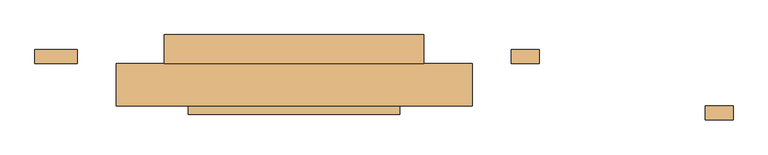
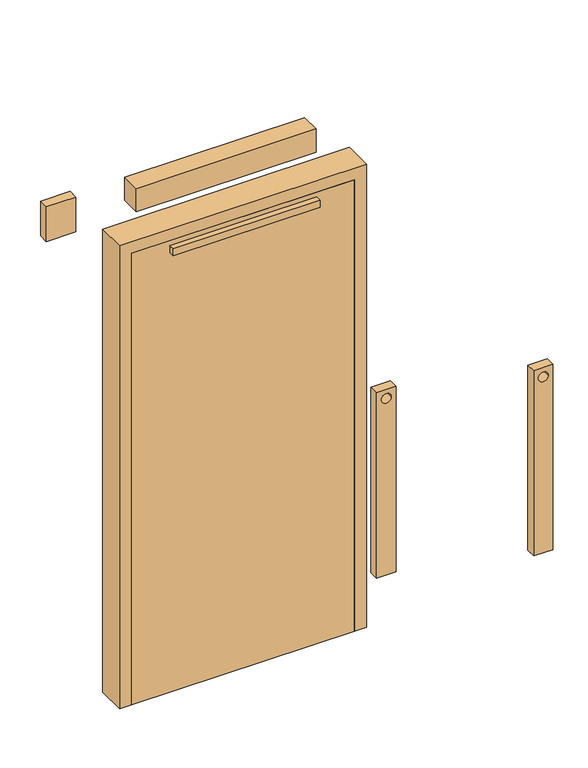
"""IFC4 building model written with IfcOpenShell, lengths in millimetres: door geometry, LOC_Enkeldörr : LOC_Enkeldörr."""

import ifcopenshell
import ifcopenshell.guid

model = None  # the IFC model being written
_history = None  # IfcOwnerHistory: only IFC2X3 demands one
_inside = {}  # id of a spatial element -> (the spatial element, [elements in it])
_under = {}  # id of a project, library or spatial element -> (it, [spatial elements below it])
_declared = {}  # id of a project -> (the project, [libraries it declares])
_typed = {}  # id of a type object -> (the type object, [elements of that type])
_made_of = {}  # id of a material, layer set ... -> (it, [elements and type objects made of it])


def new_model(schema):
    """Start an empty IFC model of exactly this schema.

    Asked for "IFC4X3", IfcOpenShell would pick the latest addendum, in which some entities
    have other attributes; the version numbers below select the first issue.
    IFC2X3 requires an IfcOwnerHistory on every rooted entity: one is made here for all.
    """
    global model, _history
    if schema == "IFC4X3":
        model = ifcopenshell.file(schema_version=(4, 3, 0, 0))
    else:
        model = ifcopenshell.file(schema=schema)
    _inside.clear()
    _under.clear()
    _declared.clear()
    _typed.clear()
    _made_of.clear()
    _history = None
    if model.schema == "IFC2X3":
        org = make("IfcOrganization", Name="unknown")
        user = make(
            "IfcPersonAndOrganization",
            ThePerson=make("IfcPerson", FamilyName="unknown"),
            TheOrganization=org,
        )
        app = make(
            "IfcApplication",
            ApplicationDeveloper=org,
            Version="unknown",
            ApplicationFullName="unknown",
            ApplicationIdentifier="unknown",
        )
        _history = make(
            "IfcOwnerHistory",
            OwningUser=user,
            OwningApplication=app,
            ChangeAction="ADDED",
            CreationDate=0,
        )
    return model


def make(cls, **values):
    """One entity of the class cls with the attributes given. An attribute that is None is left unset."""
    return model.create_entity(
        cls, **{name: value for name, value in values.items() if value is not None}
    )


def rooted(cls, **values):
    """An entity with a GlobalId (a new one), such as an element, a storey or a relation."""
    return make(cls, GlobalId=ifcopenshell.guid.new(), OwnerHistory=_history, **values)


def si_unit(unit_type, name, prefix=None):
    """IfcSIUnit, for example si_unit("LENGTHUNIT", "METRE", prefix="MILLI")."""
    return make("IfcSIUnit", UnitType=unit_type, Prefix=prefix, Name=name)


def assignment(units):
    """IfcUnitAssignment: the units of a project."""
    return None if units is None else make("IfcUnitAssignment", Units=units)


def point(xyz):
    """IfcCartesianPoint."""
    return None if xyz is None else make("IfcCartesianPoint", Coordinates=xyz)


def direction(xyz):
    """IfcDirection."""
    return None if xyz is None else make("IfcDirection", DirectionRatios=xyz)


def frame(location, z_axis=None, x_axis=None):
    """IfcAxis2Placement3D, a coordinate frame: its origin and axes. An axis left out is left unset."""
    return make(
        "IfcAxis2Placement3D",
        Location=point(location),
        Axis=direction(z_axis),
        RefDirection=direction(x_axis),
    )


def frame_2d(location, x_axis=None):
    """IfcAxis2Placement2D, a coordinate frame in the plane: its origin and x axis."""
    return make(
        "IfcAxis2Placement2D", Location=point(location), RefDirection=direction(x_axis)
    )


def origin():
    """The frame at (0, 0, 0) with its axes left unset."""
    return frame((0.0, 0.0, 0.0))


def origin_with_axes():
    """The frame at (0, 0, 0) with the z axis (0, 0, 1) and the x axis (1, 0, 0) written out."""
    return frame((0.0, 0.0, 0.0), z_axis=(0.0, 0.0, 1.0), x_axis=(1.0, 0.0, 0.0))


def place(relative_to, where):
    """IfcLocalPlacement: puts the frame where relative to a parent placement (None: the world)."""
    return make(
        "IfcLocalPlacement", PlacementRelTo=relative_to, RelativePlacement=where
    )


def context(
    kind, dimensions, precision=None, world=None, true_north=None, identifier=None
):
    """IfcGeometricRepresentationContext, for example the 3D "Model" context."""
    return make(
        "IfcGeometricRepresentationContext",
        ContextIdentifier=identifier,
        ContextType=kind,
        CoordinateSpaceDimension=dimensions,
        Precision=precision,
        WorldCoordinateSystem=world,
        TrueNorth=true_north,
    )


def project(units=None, contexts=None):
    """IfcProject with its units and contexts."""
    return rooted(
        "IfcProject",
        Name="project",
        RepresentationContexts=contexts,
        UnitsInContext=assignment(units),
    )


def spatial(cls, under=None, at=None, **own):
    """A site, building, storey or space (cls), placed at a placement, below another one or the project."""
    s = rooted(cls, ObjectPlacement=at, **own)
    if under is not None:
        _under.setdefault(under.id(), (under, []))[1].append(s)
    return s


def polyline(points):
    """IfcPolyline through the points."""
    return make("IfcPolyline", Points=[point(p) for p in points])


def circle_curve(where, radius):
    """IfcCircle in the frame where."""
    return make("IfcCircle", Position=where, Radius=radius)


def trimmed(basis, trim1, trim2, sense, master):
    """IfcTrimmedCurve: the piece of a basis curve between two trims."""
    return make(
        "IfcTrimmedCurve",
        BasisCurve=basis,
        Trim1=trim1,
        Trim2=trim2,
        SenseAgreement=sense,
        MasterRepresentation=master,
    )


def segment(curve, same_sense, transition):
    """IfcCompositeCurveSegment."""
    return make(
        "IfcCompositeCurveSegment",
        Transition=transition,
        SameSense=same_sense,
        ParentCurve=curve,
    )


def composite_curve(segments, self_intersect=None):
    """IfcCompositeCurve: segments joined end to end."""
    return make("IfcCompositeCurve", Segments=segments, SelfIntersect=self_intersect)


def outline(outer, holes=None, kind="AREA"):
    """IfcArbitraryClosedProfileDef: a profile drawn as a closed curve; with holes, ...WithVoids."""
    if holes is None:
        return make("IfcArbitraryClosedProfileDef", ProfileType=kind, OuterCurve=outer)
    return make(
        "IfcArbitraryProfileDefWithVoids",
        ProfileType=kind,
        OuterCurve=outer,
        InnerCurves=holes,
    )


def extrude(swept, where, along, depth):
    """IfcExtrudedAreaSolid: the profile swept, set in the frame where, extruded along a direction by depth."""
    return make(
        "IfcExtrudedAreaSolid",
        SweptArea=swept,
        Position=where,
        ExtrudedDirection=direction(along),
        Depth=depth,
    )


def shape(context_of_items, identifier, shape_type, items):
    """IfcShapeRepresentation: the items that make up one representation, for example the "Body"."""
    return make(
        "IfcShapeRepresentation",
        ContextOfItems=context_of_items,
        RepresentationIdentifier=identifier,
        RepresentationType=shape_type,
        Items=items,
    )


def source(mapping_origin, context_of_items, identifier, shape_type, items):
    """IfcRepresentationMap: a shape defined once, which mapped items show again and again."""
    return make(
        "IfcRepresentationMap",
        MappingOrigin=mapping_origin,
        MappedRepresentation=shape(context_of_items, identifier, shape_type, items),
    )


def transform(
    local_origin,
    x_axis=None,
    y_axis=None,
    z_axis=None,
    scale=None,
    scale2=None,
    scale3=None,
    uniform=True,
):
    """IfcCartesianTransformationOperator3D, or its non-uniform kind. x_axis, y_axis, z_axis: its Axis1, 2, 3."""
    if uniform:
        return make(
            "IfcCartesianTransformationOperator3D",
            Axis1=direction(x_axis),
            Axis2=direction(y_axis),
            LocalOrigin=point(local_origin),
            Scale=scale,
            Axis3=direction(z_axis),
        )
    return make(
        "IfcCartesianTransformationOperator3DnonUniform",
        Axis1=direction(x_axis),
        Axis2=direction(y_axis),
        LocalOrigin=point(local_origin),
        Scale=scale,
        Axis3=direction(z_axis),
        Scale2=scale2,
        Scale3=scale3,
    )


def mapped(mapping_source, mapping_target):
    """IfcMappedItem: shows the shape of a source again, moved by a transform."""
    return make(
        "IfcMappedItem", MappingSource=mapping_source, MappingTarget=mapping_target
    )


def made_of(thing, what):
    """Note that an element or type object is made of a material, layer set ...; save() writes the relation."""
    if what is not None:
        _made_of.setdefault(what.id(), (what, []))[1].append(thing)
    return thing


def element(
    cls,
    number,
    at=None,
    inside=None,
    cuts=None,
    type_object=None,
    material=None,
    context=None,
    identifier="Body",
    shape_type=None,
    held_by="IfcProductDefinitionShape",
    body=None,
    shapes=None,
    **own,
):
    """One element of the class cls, such as IfcWall. Its Tag is "e" and its number.

    at: its placement. inside: the storey or other place that contains it. cuts: it is an
    opening in that element (IfcRelVoidsElement). A single representation is given by context,
    identifier, shape_type and body (its items); several are given by shapes. held_by: the class
    of the entity that holds the representations. save() writes the other relations.
    """
    e = rooted(cls, Tag="e%d" % number, ObjectPlacement=at, **own)
    if body is not None:
        shapes = [shape(context, identifier, shape_type, body)]
    if shapes is not None:
        e.Representation = make(held_by, Representations=shapes)
    if inside is not None:
        _inside.setdefault(inside.id(), (inside, []))[1].append(e)
    if cuts is not None:
        rooted(
            "IfcRelVoidsElement", RelatingBuildingElement=cuts, RelatedOpeningElement=e
        )
    if type_object is not None:
        _typed.setdefault(type_object.id(), (type_object, []))[1].append(e)
    return made_of(e, material)


def aggregate(whole, parts):
    """IfcRelAggregates: a whole, such as a stair, and the parts it consists of."""
    return rooted("IfcRelAggregates", RelatingObject=whole, RelatedObjects=parts)


def save(model, path):
    """Write the relations noted so far, then the file.

    IfcRelAggregates (storeys below a building ...), IfcRelContainedInSpatialStructure (elements
    in a storey), IfcRelDefinesByType, IfcRelAssociatesMaterial and IfcRelDeclares: one each for
    every whole, place, type object, material and project.
    """
    for whole, parts in _under.values():
        aggregate(whole, parts)
    for where, things in _inside.values():
        rooted(
            "IfcRelContainedInSpatialStructure",
            RelatedElements=things,
            RelatingStructure=where,
        )
    for kind, things in _typed.values():
        rooted("IfcRelDefinesByType", RelatedObjects=things, RelatingType=kind)
    for what, things in _made_of.values():
        rooted("IfcRelAssociatesMaterial", RelatedObjects=things, RelatingMaterial=what)
    for by, libraries in _declared.values():
        rooted("IfcRelDeclares", RelatingContext=by, RelatedDefinitions=libraries)
    model.write(path)


def door_cd6877d1(model_context):
    return source(origin(), model_context, "Body", "SweptSolid", [
        extrude(outline(polyline([(300.0, 3.9461432), (300.0, -20.0), (-300.0, -20.0), (-300.0, 3.9461432), (300.0, 3.9461432)])), frame((0.0, 0.0, 1900.0), z_axis=(0.0, 0.0, 1.0), x_axis=(1.0, 0.0, 0.0)), (0.0, 0.0, 1.0), 30.0),
        extrude(outline(polyline([(300.0, -60.0), (300.0, -84.7279155), (-300.0, -84.7279155), (-300.0, -60.0), (300.0, -60.0)])), frame((0.0, 0.0, 1900.0), z_axis=(0.0, 0.0, 1.0), x_axis=(1.0, 0.0, 0.0)), (0.0, 0.0, 1.0), 30.0),
        extrude(outline(polyline([(455.0, -60.0), (-455.0, -60.0), (-455.0, -20.0), (455.0, -20.0), (455.0, -60.0)])), origin_with_axes(), (0.0, 0.0, 1.0), 1950.0),
        extrude(outline(polyline([(-615.0, 100.0), (-615.0, 60.0), (-735.0, 60.0), (-735.0, 100.0), (-615.0, 100.0)])), frame((0.0, 0.0, 2026.8339397), z_axis=(0.0, 0.0, 1.0), x_axis=(1.0, 0.0, 0.0)), (0.0, 0.0, 1.0), 150.0),
        extrude(outline(polyline([(900.0, 695.0), (900.0, 615.0), (100.0, 615.0), (100.0, 695.0), (900.0, 695.0)]), holes=[composite_curve([segment(trimmed(circle_curve(frame_2d((862.8880859, 655.0)), 20.0), [point((862.8880859, 635.0))], [point((862.8880859, 675.0))], True, "CARTESIAN"), True, "CONTINUOUS"), segment(trimmed(circle_curve(frame_2d((862.8880859, 655.0)), 20.0), [point((862.8880859, 675.0))], [point((862.8880859, 635.0))], True, "CARTESIAN"), True, "CONTINUOUS")], self_intersect=False)]), frame((0.0, 60.0, 0.0), z_axis=(0.0, 1.0, 0.0), x_axis=(0.0, 0.0, 1.0)), (0.0, 0.0, 1.0), 40.0),
        extrude(outline(polyline([(367.845119, 141.7641566), (367.845119, 60.0), (-367.845119, 60.0), (-367.845119, 141.7641566), (367.845119, 141.7641566)])), frame((0.0, 0.0, 2026.8339397), z_axis=(0.0, 0.0, 1.0), x_axis=(1.0, 0.0, 0.0)), (0.0, 0.0, 1.0), 100.0),
        extrude(outline(polyline([(900.0, 1165.5145815), (100.0, 1165.5145815), (100.0, 1244.4854185), (900.0, 1244.4854185), (900.0, 1165.5145815)]), holes=[composite_curve([segment(trimmed(circle_curve(frame_2d((860.0, 1205.0)), 20.0), [point((860.0, 1185.0))], [point((860.0, 1225.0))], True, "CARTESIAN"), True, "CONTINUOUS"), segment(trimmed(circle_curve(frame_2d((860.0, 1205.0)), 20.0), [point((860.0, 1225.0))], [point((860.0, 1185.0))], True, "CARTESIAN"), True, "CONTINUOUS")], self_intersect=False)]), frame((0.0, -99.7931161, 0.0), z_axis=(0.0, 1.0, 0.0), x_axis=(0.0, 0.0, 1.0)), (0.0, 0.0, 1.0), 39.7931161),
        extrude(outline(polyline([(2000.0, 505.0), (2000.0, -505.0), (0.0, -505.0), (0.0, -455.0), (1950.0, -455.0), (1950.0, 455.0), (0.0, 455.0), (0.0, 505.0), (2000.0, 505.0)])), frame((0.0, -60.0, 0.0), z_axis=(0.0, 1.0, 0.0), x_axis=(0.0, 0.0, 1.0)), (0.0, 0.0, 1.0), 120.0),
    ])


if __name__ == "__main__":
    model = new_model("IFC4")
    model_context = context("Model", 3, world=origin())
    ifc_project = project(units=[si_unit("LENGTHUNIT", "METRE", prefix="MILLI")], contexts=[model_context])
    site = spatial("IfcSite", under=ifc_project)
    building = spatial("IfcBuilding", under=site)
    placement = place(None, origin())
    door_shape = door_cd6877d1(model_context)
    element("IfcDoor", 1, ObjectType="LOC_Enkeldörr : LOC_Enkeldörr", at=placement, inside=building, context=model_context, shape_type="MappedRepresentation", body=[
        mapped(door_shape, transform((0.0, 0.0, 0.0), x_axis=(1.0, 0.0, 0.0), y_axis=(0.0, 1.0, 0.0), z_axis=(0.0, 0.0, 1.0))),
    ])
    save(model, "model.ifc")
